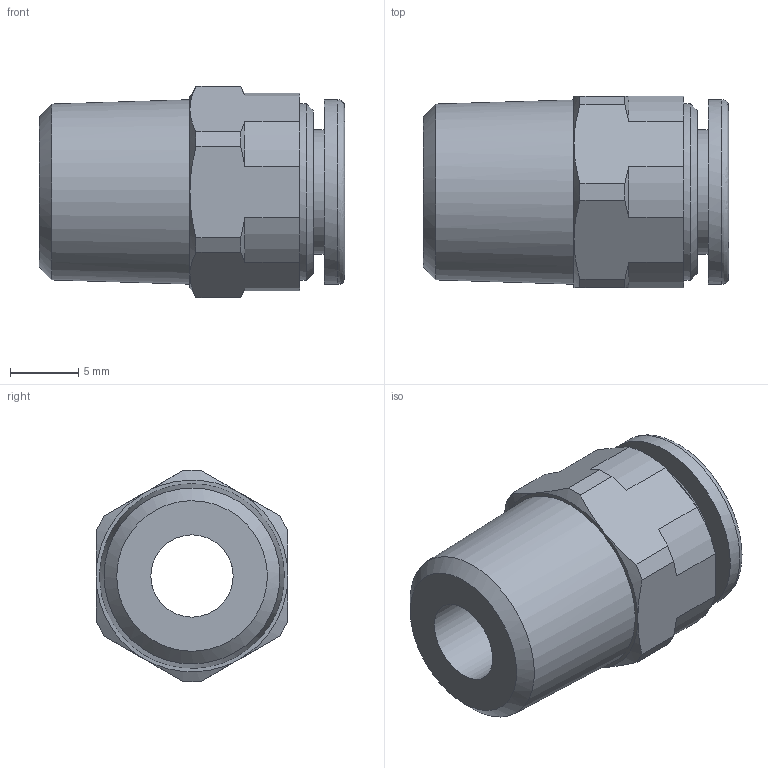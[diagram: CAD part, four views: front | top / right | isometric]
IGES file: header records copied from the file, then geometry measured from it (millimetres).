
Global section: file name: [09] FS8-02M FS8-02MW; native system: Autodesk Inventor 2014; preprocessor: unknown; author: kazuhiro.t; date: 20130806.164605; units: millimetre
Bounding box: 22.3 x 14 x 15.45 mm (x, y, z)
Volume: 2250.4 mm3; surface area: 1828.6 mm2
Topology: 1 solids, 1 shells, 46 faces, 112 edges, 73 vertices
Faces by surface type: bspline 46
